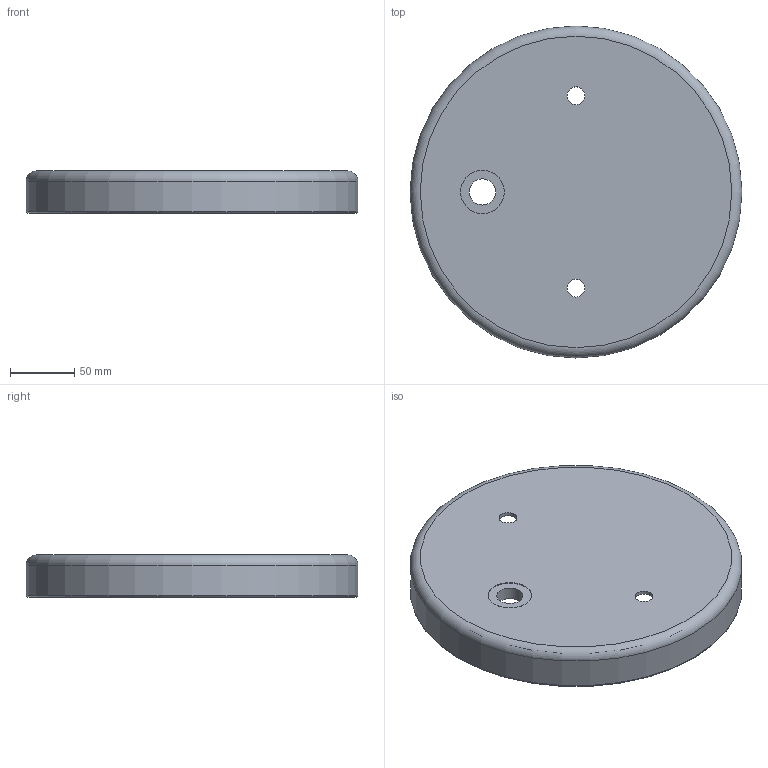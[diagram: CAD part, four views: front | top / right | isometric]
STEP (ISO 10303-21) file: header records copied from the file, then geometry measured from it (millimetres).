
FILE_DESCRIPTION(('Open CASCADE Model'),'2;1');
FILE_NAME('Open CASCADE Shape Model','2026-10-31T13:37:39',('Author'),( 'Open CASCADE'),'Open CASCADE STEP processor 7.9','Open CASCADE 7.9' ,'Unknown');
FILE_SCHEMA(('AUTOMOTIVE_DESIGN { 1 0 10303 214 1 1 1 1 }'));
Length unit declared in the file: millimetre
Products named in the file (1): Open CASCADE STEP translator 7.9 1
Bounding box: 259 x 259 x 33 mm (x, y, z)
Volume: 218557.4 mm3; surface area: 152959.5 mm2
Topology: 1 solids, 1 shells, 15 faces, 27 edges, 17 vertices
Faces by surface type: cylinder 7, plane 5, torus 3
Full cylindrical faces by diameter (mm): 14 x2, 20.5 x1, 26.5 x1, 34 x1, 253 x1, 259 x1
Entity records: 744 total; most frequent: DIRECTION 127, CARTESIAN_POINT 120, ORIENTED_EDGE 54, PCURVE 54, DEFINITIONAL_REPRESENTATION 54, LINE 41, VECTOR 41, AXIS2_PLACEMENT_3D 36
